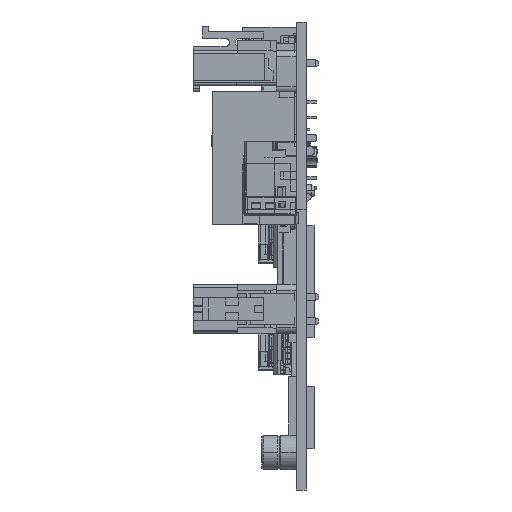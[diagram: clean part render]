
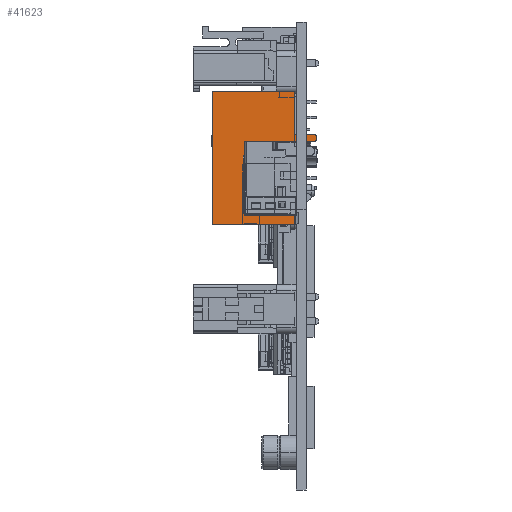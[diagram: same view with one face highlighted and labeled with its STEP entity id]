
A CAD part, left-side view. The second image highlights one B-rep face of the part: STEP entity #41623.
In plain terms, the highlighted planar face has unit normal (-1, 0, 0) as drawn and (1, 0, 0) by its records, which use the part's own axes.
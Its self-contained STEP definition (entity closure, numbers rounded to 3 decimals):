
#36867=DIRECTION('',(0.,-1.,0.));
#36868=VECTOR('',#36867,13.05);
#36869=CARTESIAN_POINT('',(7.88,6.675,0.));
#36870=LINE('',#36869,#36868);
#37027=DIRECTION('',(0.,-1.,0.));
#37028=VECTOR('',#37027,3.1);
#37029=CARTESIAN_POINT('',(7.88,9.775,13.3));
#37030=LINE('',#37029,#37028);
#37031=DIRECTION('',(0.,0.,-1.));
#37032=VECTOR('',#37031,13.3);
#37033=CARTESIAN_POINT('',(7.88,6.675,13.3));
#37034=LINE('',#37033,#37032);
#37035=DIRECTION('',(0.,0.,1.));
#37036=VECTOR('',#37035,21.33);
#37037=CARTESIAN_POINT('',(7.88,-6.375,0.));
#37038=LINE('',#37037,#37036);
#37039=DIRECTION('',(0.,1.,0.));
#37040=VECTOR('',#37039,13.05);
#37041=CARTESIAN_POINT('',(7.88,-6.375,21.33));
#37042=LINE('',#37041,#37040);
#37043=DIRECTION('',(0.,0.,-1.));
#37044=VECTOR('',#37043,6.83);
#37045=CARTESIAN_POINT('',(7.88,6.675,21.33));
#37046=LINE('',#37045,#37044);
#37047=DIRECTION('',(0.,1.,0.));
#37048=VECTOR('',#37047,3.1);
#37049=CARTESIAN_POINT('',(7.88,6.675,14.5));
#37050=LINE('',#37049,#37048);
#37051=CARTESIAN_POINT('',(7.88,9.775,14.));
#37052=DIRECTION('',(-1.,0.,0.));
#37053=DIRECTION('',(0.,0.,1.));
#37054=AXIS2_PLACEMENT_3D('',#37051,#37052,#37053);
#37056=DIRECTION('',(0.,0.,-1.));
#37057=VECTOR('',#37056,0.2);
#37058=CARTESIAN_POINT('',(7.88,10.275,14.));
#37059=LINE('',#37058,#37057);
#37060=CARTESIAN_POINT('',(7.88,9.775,13.8));
#37061=DIRECTION('',(-1.,0.,0.));
#37062=DIRECTION('',(0.,1.,0.));
#37063=AXIS2_PLACEMENT_3D('',#37060,#37061,#37062);
#37065=CARTESIAN_POINT('',(7.88,5.325,2.45));
#37066=DIRECTION('',(1.,0.,0.));
#37067=DIRECTION('',(0.,-1.,0.));
#37068=AXIS2_PLACEMENT_3D('',#37065,#37066,#37067);
#37070=DIRECTION('',(0.,0.,1.));
#37071=VECTOR('',#37070,9.5);
#37072=CARTESIAN_POINT('',(7.88,5.575,2.45));
#37073=LINE('',#37072,#37071);
#37074=CARTESIAN_POINT('',(7.88,5.325,11.95));
#37075=DIRECTION('',(1.,0.,0.));
#37076=DIRECTION('',(0.,1.,0.));
#37077=AXIS2_PLACEMENT_3D('',#37074,#37075,#37076);
#37079=DIRECTION('',(0.,0.,-1.));
#37080=VECTOR('',#37079,9.5);
#37081=CARTESIAN_POINT('',(7.88,5.075,11.95));
#37082=LINE('',#37081,#37080);
#37083=CARTESIAN_POINT('',(7.88,0.125,2.45));
#37084=DIRECTION('',(1.,0.,0.));
#37085=DIRECTION('',(0.,-1.,0.));
#37086=AXIS2_PLACEMENT_3D('',#37083,#37084,#37085);
#37088=DIRECTION('',(0.,0.,1.));
#37089=VECTOR('',#37088,9.5);
#37090=CARTESIAN_POINT('',(7.88,0.375,
2.45));
#37091=LINE('',#37090,#37089);
#37092=CARTESIAN_POINT('',(7.88,0.125,11.95));
#37093=DIRECTION('',(1.,0.,0.));
#37094=DIRECTION('',(0.,1.,0.));
#37095=AXIS2_PLACEMENT_3D('',#37092,#37093,#37094);
#37097=DIRECTION('',(0.,0.,-1.));
#37098=VECTOR('',#37097,9.5);
#37099=CARTESIAN_POINT('',(7.88,-0.125,
11.95));
#37100=LINE('',#37099,#37098);
#40089=CARTESIAN_POINT('',(7.88,6.675,0.));
#40090=CARTESIAN_POINT('',(7.88,-6.375,0.));
#40091=VERTEX_POINT('',#40089);
#40092=VERTEX_POINT('',#40090);
#40165=CARTESIAN_POINT('',(7.88,9.775,13.3));
#40166=CARTESIAN_POINT('',(7.88,6.675,13.3));
#40167=VERTEX_POINT('',#40165);
#40168=VERTEX_POINT('',#40166);
#40169=CARTESIAN_POINT('',(7.88,-6.375,21.33));
#40170=VERTEX_POINT('',#40169);
#40171=CARTESIAN_POINT('',(7.88,6.675,21.33));
#40172=VERTEX_POINT('',#40171);
#40173=CARTESIAN_POINT('',(7.88,6.675,14.5));
#40174=VERTEX_POINT('',#40173);
#40175=CARTESIAN_POINT('',(7.88,9.775,14.5));
#40176=VERTEX_POINT('',#40175);
#40177=CARTESIAN_POINT('',(7.88,10.275,14.));
#40178=VERTEX_POINT('',#40177);
#40179=CARTESIAN_POINT('',(7.88,10.275,13.8));
#40180=VERTEX_POINT('',#40179);
#40181=CARTESIAN_POINT('',(7.88,5.075,2.45));
#40182=CARTESIAN_POINT('',(7.88,5.575,2.45));
#40183=VERTEX_POINT('',#40181);
#40184=VERTEX_POINT('',#40182);
#40185=CARTESIAN_POINT('',(7.88,5.575,11.95));
#40186=VERTEX_POINT('',#40185);
#40187=CARTESIAN_POINT('',(7.88,5.075,11.95));
#40188=VERTEX_POINT('',#40187);
#40189=CARTESIAN_POINT('',(7.88,-0.125,2.45));
#40190=CARTESIAN_POINT('',(7.88,0.375,
2.45));
#40191=VERTEX_POINT('',#40189);
#40192=VERTEX_POINT('',#40190);
#40193=CARTESIAN_POINT('',(7.88,0.375,
11.95));
#40194=VERTEX_POINT('',#40193);
#40195=CARTESIAN_POINT('',(7.88,-0.125,11.95));
#40196=VERTEX_POINT('',#40195);
#41577=CARTESIAN_POINT('',(7.88,0.15,10.665));
#41578=DIRECTION('',(1.,0.,0.));
#41579=DIRECTION('',(0.,-0.707,0.707));
#41580=AXIS2_PLACEMENT_3D('',#41577,#41578,#41579);
#41581=PLANE('',#41580);
#41583=ORIENTED_EDGE('',*,*,#41582,.T.);
#41585=ORIENTED_EDGE('',*,*,#41584,.T.);
#41586=ORIENTED_EDGE('',*,*,#41478,.T.);
#41588=ORIENTED_EDGE('',*,*,#41587,.T.);
#41590=ORIENTED_EDGE('',*,*,#41589,.T.);
#41592=ORIENTED_EDGE('',*,*,#41591,.T.);
#41594=ORIENTED_EDGE('',*,*,#41593,.T.);
#41596=ORIENTED_EDGE('',*,*,#41595,.T.);
#41598=ORIENTED_EDGE('',*,*,#41597,.T.);
#41600=ORIENTED_EDGE('',*,*,#41599,.T.);
#41601=EDGE_LOOP('',(#41583,#41585,#41586,#41588,#41590,#41592,#41594,#41596,
#41598,#41600));
#41602=FACE_OUTER_BOUND('',#41601,.F.);
#41604=ORIENTED_EDGE('',*,*,#41603,.T.);
#41606=ORIENTED_EDGE('',*,*,#41605,.T.);
#41608=ORIENTED_EDGE('',*,*,#41607,.T.);
#41610=ORIENTED_EDGE('',*,*,#41609,.T.);
#41611=EDGE_LOOP('',(#41604,#41606,#41608,#41610));
#41612=FACE_BOUND('',#41611,.F.);
#41614=ORIENTED_EDGE('',*,*,#41613,.T.);
#41616=ORIENTED_EDGE('',*,*,#41615,.T.);
#41618=ORIENTED_EDGE('',*,*,#41617,.T.);
#41620=ORIENTED_EDGE('',*,*,#41619,.T.);
#41621=EDGE_LOOP('',(#41614,#41616,#41618,#41620));
#41622=FACE_BOUND('',#41621,.F.);
#37055=CIRCLE('',#37054,0.5);
#37064=CIRCLE('',#37063,0.5);
#37069=CIRCLE('',#37068,0.25);
#37078=CIRCLE('',#37077,0.25);
#37087=CIRCLE('',#37086,0.25);
#37096=CIRCLE('',#37095,0.25);
#41478=EDGE_CURVE('',#40091,#40092,#36870,.T.);
#41582=EDGE_CURVE('',#40167,#40168,#37030,.T.);
#41584=EDGE_CURVE('',#40168,#40091,#37034,.T.);
#41587=EDGE_CURVE('',#40092,#40170,#37038,.T.);
#41589=EDGE_CURVE('',#40170,#40172,#37042,.T.);
#41591=EDGE_CURVE('',#40172,#40174,#37046,.T.);
#41593=EDGE_CURVE('',#40174,#40176,#37050,.T.);
#41595=EDGE_CURVE('',#40176,#40178,#37055,.T.);
#41597=EDGE_CURVE('',#40178,#40180,#37059,.T.);
#41599=EDGE_CURVE('',#40180,#40167,#37064,.T.);
#41603=EDGE_CURVE('',#40183,#40184,#37069,.T.);
#41605=EDGE_CURVE('',#40184,#40186,#37073,.T.);
#41607=EDGE_CURVE('',#40186,#40188,#37078,.T.);
#41609=EDGE_CURVE('',#40188,#40183,#37082,.T.);
#41613=EDGE_CURVE('',#40191,#40192,#37087,.T.);
#41615=EDGE_CURVE('',#40192,#40194,#37091,.T.);
#41617=EDGE_CURVE('',#40194,#40196,#37096,.T.);
#41619=EDGE_CURVE('',#40196,#40191,#37100,.T.);
#41623=ADVANCED_FACE('',(#41602,#41612,#41622),#41581,.T.);
